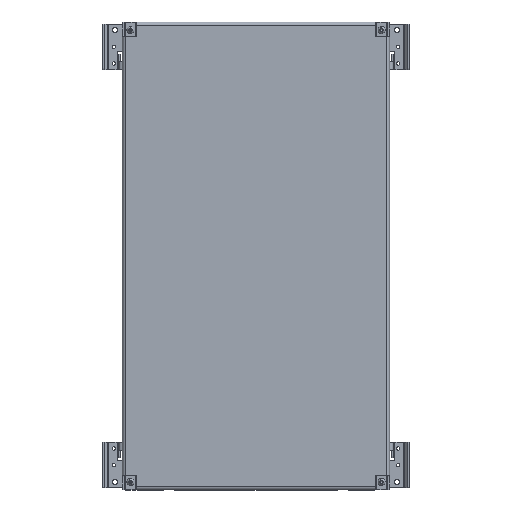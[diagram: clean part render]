
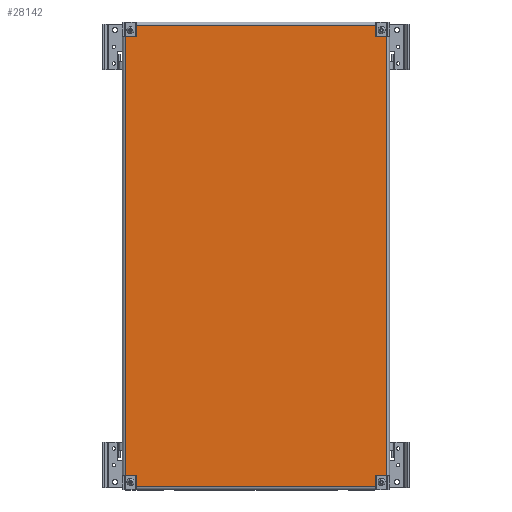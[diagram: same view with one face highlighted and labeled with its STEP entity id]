
A CAD part, top view. The second image highlights one B-rep face of the part: STEP entity #28142.
In plain terms, the highlighted planar face has unit normal (0, 0, 1).
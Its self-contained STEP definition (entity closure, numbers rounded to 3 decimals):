
#537 = CIRCLE ( 'NONE', #23541, 1. ) ;
#649 = VECTOR ( 'NONE', #16697, 1000. ) ;
#995 = CARTESIAN_POINT ( 'NONE',  ( -178.5, -349.5, 0. ) ) ;
#1092 = LINE ( 'NONE', #9950, #4340 ) ;
#2051 = CARTESIAN_POINT ( 'NONE',  ( -178.5, 349.5, 0. ) ) ;
#2183 = CARTESIAN_POINT ( 'NONE',  ( 179.5, 329.5, 0. ) ) ;
#2399 = CARTESIAN_POINT ( 'NONE',  ( 178.5, -344.5, 0. ) ) ;
#2433 = ORIENTED_EDGE ( 'NONE', *, *, #9087, .T. ) ;
#2701 = CARTESIAN_POINT ( 'NONE',  ( 178.5, -329.5, 0. ) ) ;
#2759 = CARTESIAN_POINT ( 'NONE',  ( -179.5, -328.5, 0. ) ) ;
#2994 = EDGE_CURVE ( 'NONE', #17539, #39291, #32686, .T. ) ;
#3043 = VERTEX_POINT ( 'NONE', #18292 ) ;
#3289 = DIRECTION ( 'NONE',  ( 1., 0., 0. ) ) ;
#3488 = EDGE_CURVE ( 'NONE', #24242, #27223, #1092, .T. ) ;
#3841 = EDGE_CURVE ( 'NONE', #27450, #18962, #21382, .T. ) ;
#4117 = CARTESIAN_POINT ( 'NONE',  ( -194.5, -328.5, 0. ) ) ;
#4149 = CARTESIAN_POINT ( 'NONE',  ( -178.5, -344.5, 0. ) ) ;
#4340 = VECTOR ( 'NONE', #23143, 1000. ) ;
#4626 = DIRECTION ( 'NONE',  ( 0., -1., 0. ) ) ;
#5082 = ORIENTED_EDGE ( 'NONE', *, *, #28870, .F. ) ;
#5988 = VECTOR ( 'NONE', #24925, 1000. ) ;
#6129 = CARTESIAN_POINT ( 'NONE',  ( -199.5, 328.5, 0. ) ) ;
#6485 = VERTEX_POINT ( 'NONE', #34602 ) ;
#7486 = CARTESIAN_POINT ( 'NONE',  ( -194.5, 328.5, 0. ) ) ;
#7650 = EDGE_CURVE ( 'NONE', #6485, #35737, #13234, .T. ) ;
#7842 = VECTOR ( 'NONE', #37501, 1000. ) ;
#7880 = EDGE_CURVE ( 'NONE', #17539, #35737, #37798, .T. ) ;
#8049 = CIRCLE ( 'NONE', #12638, 1. ) ;
#8378 = LINE ( 'NONE', #14987, #7842 ) ;
#8443 = LINE ( 'NONE', #2051, #29682 ) ;
#8890 = CARTESIAN_POINT ( 'NONE',  ( 178.5, 349.5, 0. ) ) ;
#9087 = EDGE_CURVE ( 'NONE', #32157, #30120, #8049, .T. ) ;
#9130 = ORIENTED_EDGE ( 'NONE', *, *, #7650, .T. ) ;
#9704 = DIRECTION ( 'NONE',  ( -1., 0., 0. ) ) ;
#9950 = CARTESIAN_POINT ( 'NONE',  ( 178.5, -349.5, 0. ) ) ;
#10046 = LINE ( 'NONE', #995, #22588 ) ;
#10278 = CARTESIAN_POINT ( 'NONE',  ( -179.5, 329.5, 0. ) ) ;
#10565 = CARTESIAN_POINT ( 'NONE',  ( 194.5, -328.5, 0. ) ) ;
#11547 = ORIENTED_EDGE ( 'NONE', *, *, #3841, .T. ) ;
#12163 = EDGE_CURVE ( 'NONE', #32261, #27223, #31838, .T. ) ;
#12638 = AXIS2_PLACEMENT_3D ( 'NONE', #10278, #13563, #29505 ) ;
#12772 = LINE ( 'NONE', #8890, #19340 ) ;
#13234 = LINE ( 'NONE', #10565, #20120 ) ;
#13563 = DIRECTION ( 'NONE',  ( 0., 0., -1. ) ) ;
#13580 = CARTESIAN_POINT ( 'NONE',  ( 179.5, -328.5, 0. ) ) ;
#13743 = CARTESIAN_POINT ( 'NONE',  ( -178.5, 344.5, 0. ) ) ;
#13858 = DIRECTION ( 'NONE',  ( 0., 1., 0. ) ) ;
#14016 = ORIENTED_EDGE ( 'NONE', *, *, #38347, .T. ) ;
#14874 = CARTESIAN_POINT ( 'NONE',  ( 179.5, -329.5, 0. ) ) ;
#14987 = CARTESIAN_POINT ( 'NONE',  ( 199.5, -328.5, 0. ) ) ;
#15094 = DIRECTION ( 'NONE',  ( 1., 0., 0. ) ) ;
#15891 = CARTESIAN_POINT ( 'NONE',  ( -179.5, -329.5, 0. ) ) ;
#16229 = DIRECTION ( 'NONE',  ( 0., 0., 1. ) ) ;
#16697 = DIRECTION ( 'NONE',  ( 1., 0., 0. ) ) ;
#17063 = ORIENTED_EDGE ( 'NONE', *, *, #32608, .F. ) ;
#17539 = VERTEX_POINT ( 'NONE', #22731 ) ;
#18184 = VECTOR ( 'NONE', #4626, 1000. ) ;
#18292 = CARTESIAN_POINT ( 'NONE',  ( 178.5, 344.5, 0. ) ) ;
#18940 = LINE ( 'NONE', #6129, #5988 ) ;
#18962 = VERTEX_POINT ( 'NONE', #23058 ) ;
#19059 = ORIENTED_EDGE ( 'NONE', *, *, #35102, .F. ) ;
#19340 = VECTOR ( 'NONE', #31634, 1000. ) ;
#19501 = VECTOR ( 'NONE', #9704, 1000. ) ;
#20120 = VECTOR ( 'NONE', #13858, 1000. ) ;
#20406 = DIRECTION ( 'NONE',  ( 0., 1., 0. ) ) ;
#20708 = ORIENTED_EDGE ( 'NONE', *, *, #35796, .F. ) ;
#21312 = ORIENTED_EDGE ( 'NONE', *, *, #3488, .F. ) ;
#21382 = CIRCLE ( 'NONE', #35281, 1. ) ;
#22028 = VERTEX_POINT ( 'NONE', #37937 ) ;
#22064 = AXIS2_PLACEMENT_3D ( 'NONE', #2183, #40213, #32840 ) ;
#22073 = DIRECTION ( 'NONE',  ( 1., 0., 0. ) ) ;
#22588 = VECTOR ( 'NONE', #23077, 1000. ) ;
#22731 = CARTESIAN_POINT ( 'NONE',  ( 179.5, 328.5, 0. ) ) ;
#23058 = CARTESIAN_POINT ( 'NONE',  ( -178.5, -329.5, 0. ) ) ;
#23077 = DIRECTION ( 'NONE',  ( 0., 1., 0. ) ) ;
#23143 = DIRECTION ( 'NONE',  ( 0., -1., 0. ) ) ;
#23541 = AXIS2_PLACEMENT_3D ( 'NONE', #14874, #34096, #37179 ) ;
#24242 = VERTEX_POINT ( 'NONE', #2701 ) ;
#24685 = VECTOR ( 'NONE', #38103, 1000. ) ;
#24686 = CARTESIAN_POINT ( 'NONE',  ( 194.5, 328.5, 0. ) ) ;
#24925 = DIRECTION ( 'NONE',  ( 1., 0., 0. ) ) ;
#25381 = LINE ( 'NONE', #38200, #19501 ) ;
#25544 = CARTESIAN_POINT ( 'NONE',  ( 0., 0., 0. ) ) ;
#26070 = ORIENTED_EDGE ( 'NONE', *, *, #28356, .F. ) ;
#26291 = ORIENTED_EDGE ( 'NONE', *, *, #2994, .T. ) ;
#26914 = CARTESIAN_POINT ( 'NONE',  ( 178.5, 329.5, 0. ) ) ;
#27223 = VERTEX_POINT ( 'NONE', #2399 ) ;
#27273 = ORIENTED_EDGE ( 'NONE', *, *, #7880, .F. ) ;
#27450 = VERTEX_POINT ( 'NONE', #2759 ) ;
#27823 = EDGE_CURVE ( 'NONE', #24242, #32400, #537, .T. ) ;
#27892 = CARTESIAN_POINT ( 'NONE',  ( 199.5, 328.5, 0. ) ) ;
#28142 = ADVANCED_FACE ( 'NONE', ( #28646 ), #31572, .T. ) ;
#28237 = CARTESIAN_POINT ( 'NONE',  ( -178.5, 329.5, 0. ) ) ;
#28356 = EDGE_CURVE ( 'NONE', #6485, #32400, #8378, .T. ) ;
#28486 = DIRECTION ( 'NONE',  ( 0., 0., -1. ) ) ;
#28556 = ORIENTED_EDGE ( 'NONE', *, *, #27823, .T. ) ;
#28646 = FACE_OUTER_BOUND ( 'NONE', #32559, .T. ) ;
#28870 = EDGE_CURVE ( 'NONE', #32157, #31574, #8443, .T. ) ;
#29012 = CARTESIAN_POINT ( 'NONE',  ( -179.5, 328.5, 0. ) ) ;
#29030 = CARTESIAN_POINT ( 'NONE',  ( -199.5, -328.5, 0. ) ) ;
#29505 = DIRECTION ( 'NONE',  ( 1., 0., 0. ) ) ;
#29682 = VECTOR ( 'NONE', #20406, 1000. ) ;
#30120 = VERTEX_POINT ( 'NONE', #29012 ) ;
#30842 = VERTEX_POINT ( 'NONE', #4117 ) ;
#31526 = LINE ( 'NONE', #29030, #24685 ) ;
#31553 = CARTESIAN_POINT ( 'NONE',  ( -178.5, -344.5, 0. ) ) ;
#31572 = PLANE ( 'NONE',  #36833 ) ;
#31574 = VERTEX_POINT ( 'NONE', #13743 ) ;
#31634 = DIRECTION ( 'NONE',  ( 0., -1., 0. ) ) ;
#31838 = LINE ( 'NONE', #4149, #649 ) ;
#32157 = VERTEX_POINT ( 'NONE', #28237 ) ;
#32261 = VERTEX_POINT ( 'NONE', #31553 ) ;
#32364 = VECTOR ( 'NONE', #22073, 1000. ) ;
#32400 = VERTEX_POINT ( 'NONE', #13580 ) ;
#32559 = EDGE_LOOP ( 'NONE', ( #40227, #32960, #21312, #28556, #26070, #9130, #27273, #26291, #19059, #34214, #5082, #2433, #17063, #14016, #20708, #11547 ) ) ;
#32608 = EDGE_CURVE ( 'NONE', #22028, #30120, #18940, .T. ) ;
#32686 = CIRCLE ( 'NONE', #22064, 1. ) ;
#32733 = LINE ( 'NONE', #7486, #18184 ) ;
#32840 = DIRECTION ( 'NONE',  ( 1., 0., 0. ) ) ;
#32960 = ORIENTED_EDGE ( 'NONE', *, *, #12163, .T. ) ;
#34096 = DIRECTION ( 'NONE',  ( 0., 0., -1. ) ) ;
#34214 = ORIENTED_EDGE ( 'NONE', *, *, #39800, .T. ) ;
#34602 = CARTESIAN_POINT ( 'NONE',  ( 194.5, -328.5, 0. ) ) ;
#35102 = EDGE_CURVE ( 'NONE', #3043, #39291, #12772, .T. ) ;
#35281 = AXIS2_PLACEMENT_3D ( 'NONE', #15891, #28486, #15094 ) ;
#35737 = VERTEX_POINT ( 'NONE', #24686 ) ;
#35796 = EDGE_CURVE ( 'NONE', #27450, #30842, #31526, .T. ) ;
#36657 = EDGE_CURVE ( 'NONE', #32261, #18962, #10046, .T. ) ;
#36833 = AXIS2_PLACEMENT_3D ( 'NONE', #25544, #16229, #3289 ) ;
#37179 = DIRECTION ( 'NONE',  ( 1., 0., 0. ) ) ;
#37501 = DIRECTION ( 'NONE',  ( -1., 0., 0. ) ) ;
#37798 = LINE ( 'NONE', #27892, #32364 ) ;
#37937 = CARTESIAN_POINT ( 'NONE',  ( -194.5, 328.5, 0. ) ) ;
#38103 = DIRECTION ( 'NONE',  ( -1., 0., 0. ) ) ;
#38200 = CARTESIAN_POINT ( 'NONE',  ( 178.5, 344.5, 0. ) ) ;
#38347 = EDGE_CURVE ( 'NONE', #22028, #30842, #32733, .T. ) ;
#39291 = VERTEX_POINT ( 'NONE', #26914 ) ;
#39800 = EDGE_CURVE ( 'NONE', #3043, #31574, #25381, .T. ) ;
#40213 = DIRECTION ( 'NONE',  ( 0., 0., -1. ) ) ;
#40227 = ORIENTED_EDGE ( 'NONE', *, *, #36657, .F. ) ;
